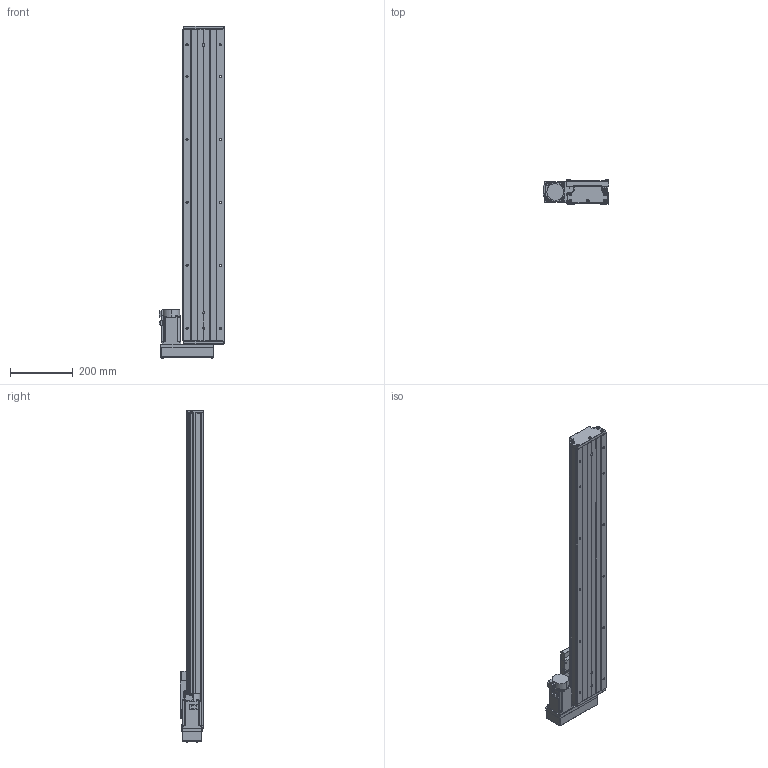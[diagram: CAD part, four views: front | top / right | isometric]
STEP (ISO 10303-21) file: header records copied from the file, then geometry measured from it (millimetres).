
FILE_DESCRIPTION (( 'STEP AP203' ), '1' );
FILE_NAME ('CTH130-800-BL-M40-C4.step', '2023-06-30T02:39:45', ( '微软用户' ), ( '微软中国' ), 'SwSTEP 2.0', 'SolidWorks 2020', '' );
FILE_SCHEMA (( 'CONFIG_CONTROL_DESIGN' ));
Length unit declared in the file: millimetre
Products named in the file (20): GTH14-001_800; CTHA60-017; す晦芛蹟隊 M3℅5; CTH130-002_GTH14-002; EE_SX911P_R; HG-KN43J-S100; GB T308.1-2013-6.35; CTHA60-016; GBT 70.2-M4¡Á35_M4¡Á35; GTH14-004; GBT 70.1-M3℅5; GTH14-015-2_CTHA86-015-2; GTH14-005; GBT77-2000 M3×3; GTH14-033; GB1155-6X6; CTH130-031; CTH130-800-BL-M40-C4; GBT70.1 M5℅16; GBT 70.2-M3¡Á5_M3¡Á6
Assembly tree (60 placements, depth 2):
  CTH130-800-BL-M40-C4
    GTH14-001_800
    CTH130-002_GTH14-002
    GB T308.1-2013-6.35  x2
    GTH14-004
    GTH14-005
    GB1155-6X6  x2
    GBT70.1 M5℅16  x10
    CTHA60-017  x3
    EE_SX911P_R  x3
    CTHA60-016  x2
    GBT 70.1-M3℅5  x6
    GBT77-2000 M3×3  x6
    CTH130-031
    GBT 70.2-M3¡Á5_M3¡Á6  x8
    す晦芛蹟隊 M3℅5  x6
    HG-KN43J-S100
    GBT 70.2-M4¡Á35_M4¡Á35  x4
    GTH14-015-2_CTHA86-015-2
    GTH14-033
Bounding box: 209.3 x 76 x 1054.2 mm (x, y, z)
Volume: 5588474.5 mm3; surface area: 924357.6 mm2
Topology: 63 solids, 63 shells, 2445 faces, 5821 edges, 3601 vertices
Faces by surface type: plane 1312, cylinder 654, cone 299, torus 124, sphere 36, bspline 20
Entity records: 44232 total; most frequent: CARTESIAN_POINT 9897, DIRECTION 6462, ORIENTED_EDGE 6348, EDGE_CURVE 3174, AXIS2_PLACEMENT_3D 2210, LINE 2042, VECTOR 2042, VERTEX_POINT 2011
